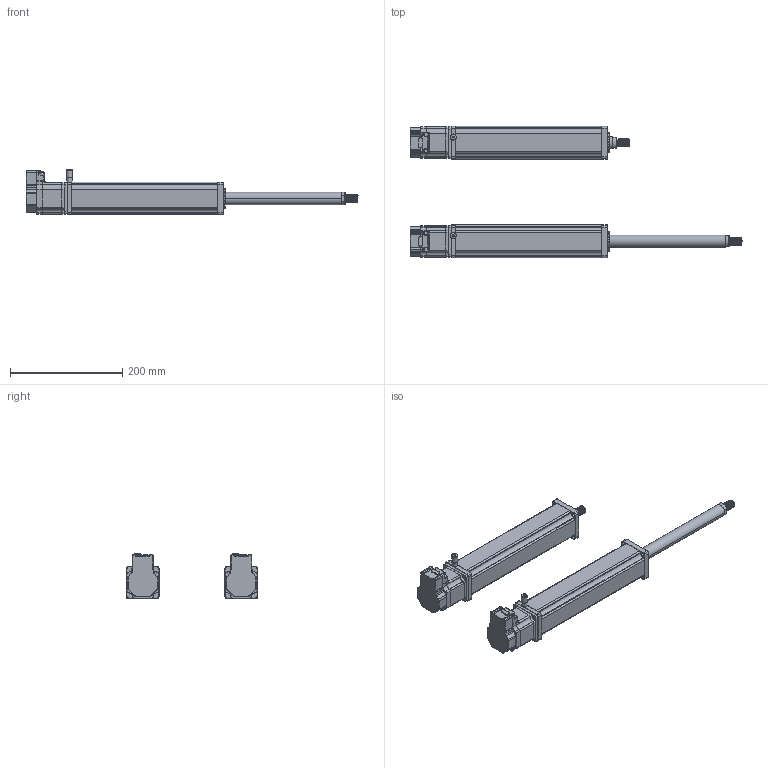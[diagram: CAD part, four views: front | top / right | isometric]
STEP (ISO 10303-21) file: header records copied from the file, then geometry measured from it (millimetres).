
FILE_DESCRIPTION(('FreeCAD Model'),'2;1');
FILE_NAME('Open CASCADE Shape Model','2023-08-04T14:00:27',('Author'),( ''),'Open CASCADE STEP processor 7.5','FreeCAD','Unknown');
FILE_SCHEMA(('AUTOMOTIVE_DESIGN { 1 0 10303 214 1 1 1 1 }'));
Length unit declared in the file: millimetre
Products named in the file (47): Unnamed; Shapes; Shapes001; Shapes002; Shapes003; Shapes004; Shapes005; Shapes006; Shapes007; Shapes008; Shapes009; Shapes010; Shapes011; Shapes012; Shapes013; Shapes014; Shapes015; Shapes016; Shapes017; Shapes018; Shapes019; Shapes020; Shapes021; Shapes022; Shapes023; Shapes024; Shapes025; Shapes026; Shapes027; Shapes028; Shapes029; Shapes030; Shapes031; Shapes032; Shapes033; Shapes034; Shapes035; Shapes036; Shapes037; Shapes038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
Assembly tree (46 placements, depth 2):
  Unnamed
    Shapes
    Shapes001
    Shapes002
    Shapes003
    Shapes004
    Shapes005
    Shapes006
    Shapes007
    Shapes008
    Shapes009
    Shapes010
    Shapes011
    Shapes012
    Shapes013
    Shapes014
    Shapes015
    Shapes016
    Shapes017
    Shapes018
    Shapes019
    Shapes020
    Shapes021
    Shapes022
    Shapes023
    Shapes024
    Shapes025
    Shapes026
    Shapes027
    Shapes028
    Shapes029
    Shapes030
    Shapes031
    Shapes032
    Shapes033
    Shapes034
    Shapes035
    Shapes036
    Shapes037
    Shapes038
    Shapes039
    Shapes040
    Shapes041
    Shapes042
    Shapes043
    AN10-01
    AN10-002
Bounding box: 590.49 x 233.23 x 81.32 mm (x, y, z)
Volume: 2205682.9 mm3; surface area: 293087 mm2
Topology: 46 solids, 46 shells, 1358 faces, 3600 edges, 2342 vertices
Faces by surface type: plane 770, cylinder 476, bspline 60, torus 38, sphere 10, cone 4
Full cylindrical faces by diameter (mm): 6 x2, 9.728 x2, 11 x2
Entity records: 146429 total; most frequent: CARTESIAN_POINT 73933, DIRECTION 13359, LINE 8409, VECTOR 8409, ORIENTED_EDGE 7168, PCURVE 7168, DEFINITIONAL_REPRESENTATION 7168, EDGE_CURVE 3584
